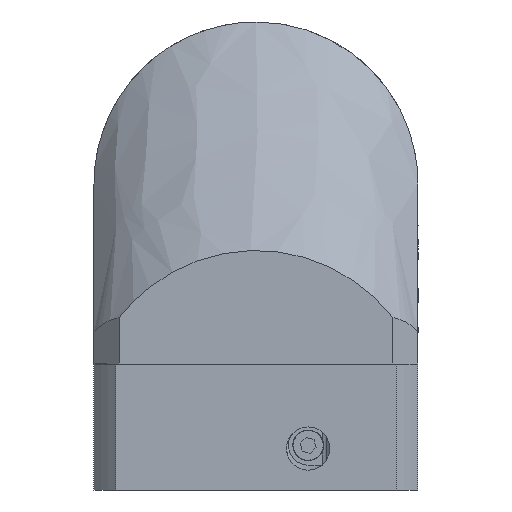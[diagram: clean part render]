
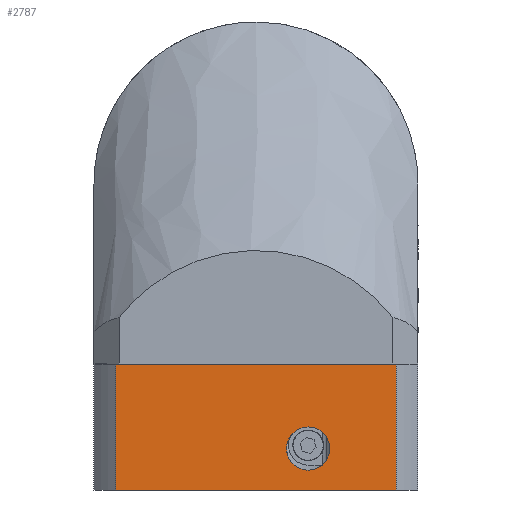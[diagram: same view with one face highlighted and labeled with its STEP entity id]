
A CAD part, front view. The second image highlights one B-rep face of the part: STEP entity #2787.
In plain terms, the highlighted planar face has unit normal (0, -1, 0) as drawn and (0, 0, 1) by its records, which use the part's own axes.
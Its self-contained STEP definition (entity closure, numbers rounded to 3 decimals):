
#125 = DIRECTION ( 'NONE',  ( 0., 0., -1. ) ) ;
#1688 = CARTESIAN_POINT ( 'NONE',  ( 5.5, -14.5, 45. ) ) ;
#1718 = CARTESIAN_POINT ( 'NONE',  ( 17.5, -14.5, 45. ) ) ;
#2229 = AXIS2_PLACEMENT_3D ( 'NONE', #21699, #33719, #41942 ) ;
#2787 = ADVANCED_FACE ( 'NONE', ( #2959, #31316 ), #47328, .T. ) ;
#2959 = FACE_OUTER_BOUND ( 'NONE', #21059, .T. ) ;
#3243 = EDGE_LOOP ( 'NONE', ( #31220, #15851 ) ) ;
#4803 = CARTESIAN_POINT ( 'NONE',  ( 35., -38.926, 45. ) ) ;
#5881 = CIRCLE ( 'NONE', #23877, 6. ) ;
#7051 = DIRECTION ( 'NONE',  ( 1., 0., 0. ) ) ;
#7362 = CARTESIAN_POINT ( 'NONE',  ( 0., 38.926, 45. ) ) ;
#7642 = ORIENTED_EDGE ( 'NONE', *, *, #13063, .F. ) ;
#8374 = AXIS2_PLACEMENT_3D ( 'NONE', #43394, #43277, #43231 ) ;
#10032 = ORIENTED_EDGE ( 'NONE', *, *, #23088, .T. ) ;
#10387 = VERTEX_POINT ( 'NONE', #4803 ) ;
#12277 = VECTOR ( 'NONE', #38259, 1000. ) ;
#12410 = EDGE_CURVE ( 'NONE', #35619, #21562, #12587, .T. ) ;
#12587 = CIRCLE ( 'NONE', #8374, 6. ) ;
#13063 = EDGE_CURVE ( 'NONE', #30114, #27331, #34654, .T. ) ;
#14546 = LINE ( 'NONE', #39663, #42998 ) ;
#15851 = ORIENTED_EDGE ( 'NONE', *, *, #12410, .T. ) ;
#15921 = CARTESIAN_POINT ( 'NONE',  ( 0., 38.926, 45. ) ) ;
#16275 = LINE ( 'NONE', #42438, #34878 ) ;
#17393 = EDGE_CURVE ( 'NONE', #21562, #35619, #5881, .T. ) ;
#19142 = EDGE_CURVE ( 'NONE', #30548, #10387, #14546, .T. ) ;
#21059 = EDGE_LOOP ( 'NONE', ( #40284, #45896, #7642, #10032 ) ) ;
#21166 = DIRECTION ( 'NONE',  ( 1., 0., 0. ) ) ;
#21562 = VERTEX_POINT ( 'NONE', #1718 ) ;
#21699 = CARTESIAN_POINT ( 'NONE',  ( 59., -45., 45. ) ) ;
#22199 = CARTESIAN_POINT ( 'NONE',  ( 11.5, -14.5, 45. ) ) ;
#23088 = EDGE_CURVE ( 'NONE', #30114, #30548, #30911, .T. ) ;
#23511 = CARTESIAN_POINT ( 'NONE',  ( 0., -45., 45. ) ) ;
#23877 = AXIS2_PLACEMENT_3D ( 'NONE', #22199, #125, #25957 ) ;
#23970 = DIRECTION ( 'NONE',  ( 0., 1., 0. ) ) ;
#24699 = EDGE_CURVE ( 'NONE', #10387, #27331, #16275, .T. ) ;
#25957 = DIRECTION ( 'NONE',  ( 1., 0., 0. ) ) ;
#27331 = VERTEX_POINT ( 'NONE', #37432 ) ;
#30114 = VERTEX_POINT ( 'NONE', #15921 ) ;
#30548 = VERTEX_POINT ( 'NONE', #44915 ) ;
#30911 = LINE ( 'NONE', #23511, #12277 ) ;
#31220 = ORIENTED_EDGE ( 'NONE', *, *, #17393, .T. ) ;
#31316 = FACE_BOUND ( 'NONE', #3243, .T. ) ;
#33515 = VECTOR ( 'NONE', #7051, 1000. ) ;
#33719 = DIRECTION ( 'NONE',  ( 0., 0., 1. ) ) ;
#34654 = LINE ( 'NONE', #7362, #33515 ) ;
#34878 = VECTOR ( 'NONE', #23970, 1000. ) ;
#35619 = VERTEX_POINT ( 'NONE', #1688 ) ;
#37432 = CARTESIAN_POINT ( 'NONE',  ( 35., 38.926, 45. ) ) ;
#38259 = DIRECTION ( 'NONE',  ( 0., -1., 0. ) ) ;
#39663 = CARTESIAN_POINT ( 'NONE',  ( 59., -38.926, 45. ) ) ;
#40284 = ORIENTED_EDGE ( 'NONE', *, *, #19142, .T. ) ;
#41942 = DIRECTION ( 'NONE',  ( 1., 0., 0. ) ) ;
#42438 = CARTESIAN_POINT ( 'NONE',  ( 35., 59.5, 45. ) ) ;
#42998 = VECTOR ( 'NONE', #21166, 1000. ) ;
#43231 = DIRECTION ( 'NONE',  ( 1., 0., 0. ) ) ;
#43277 = DIRECTION ( 'NONE',  ( 0., 0., -1. ) ) ;
#43394 = CARTESIAN_POINT ( 'NONE',  ( 11.5, -14.5, 45. ) ) ;
#44915 = CARTESIAN_POINT ( 'NONE',  ( 0., -38.926, 45. ) ) ;
#45896 = ORIENTED_EDGE ( 'NONE', *, *, #24699, .T. ) ;
#47328 = PLANE ( 'NONE',  #2229 ) ;
